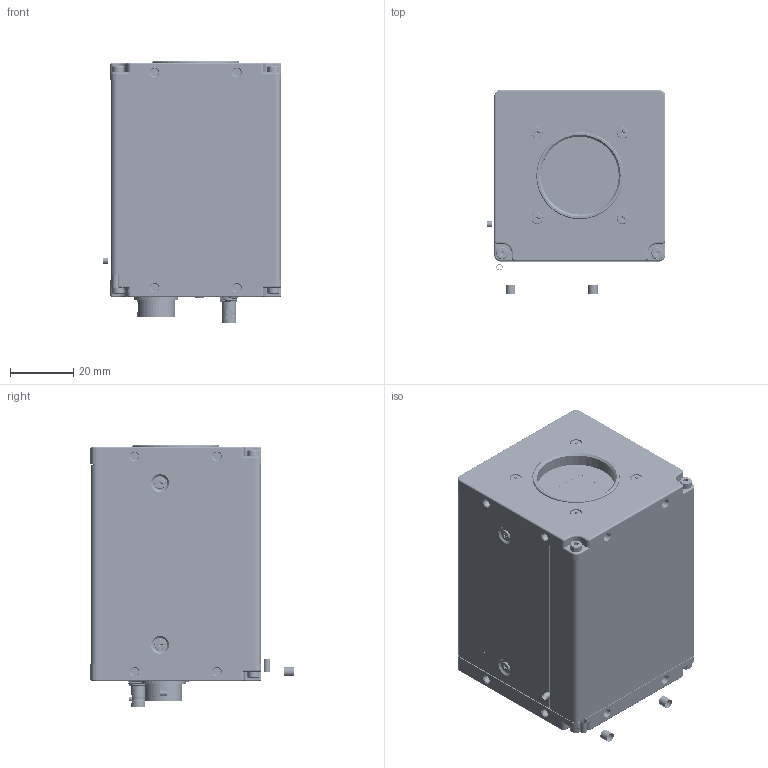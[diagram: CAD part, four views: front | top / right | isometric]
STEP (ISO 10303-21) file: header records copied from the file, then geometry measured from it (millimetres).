
FILE_DESCRIPTION((''),'2;1');
FILE_NAME('AP-5100_ELE_MECHA_LAYOUT_ASM','2024-10-25T18:29:53',('has'),(''),'CREO PARAMETRIC BY PTC INC, 2024133','CREO PARAMETRIC BY PTC INC, 2024133','');
FILE_SCHEMA(('AUTOMOTIVE_DESIGN { 1 0 10303 214 1 1 1 1 }'));
Products named in the file (54): PRISM_ASSY_9_PRT_1; SEIMITU_2_M2X3_NI_2_PRT_1_1; SEIMITU_2_M2X3_NI_2_PRT_1_2; SEIMITU_2_M2X3_NI_2_PRT_1_ASM; SENSOR_ASSY_IMX265_1; SENSOR_GUIDE_BLOCK_2_PRT_1; M4-4259-00E_3200_SENSOR_MASK_B_; USL00-40L; SENSOR_IMX548_ASSY_JAI_ASM_ASM; 1-1_8_PRISM_ASSY_JAI_ASM_1_ASM; AP5100_FRONT_P_COMP_54; SEIMITU_2_M2X3_BZN_4; CAP_2X6_SUS_3; AP-5100_CHASSIS; AP5100_REAR_PANEL_COM_CXP; HR10A-10R-12SB_CAMERA_2; 12PIN_KIKUZA_5; 12PIN_NUT_3; REAR_PCB_USB_12PIN_2ND_2_PRT_1; FX23-80P-0_5SV15; M4-3764-00E_LED_LENS_G4-3_4_1; SPACER_ASB2003-3E_HIROSUGI_3; SEIMITU_2_M2X5_BZN_5; HD-BNC_NUT_5; HD-BNC_3; AP-5100-CXP_REAR_PANEL_ASSY_ASM; AP5100_COVER_P_COMP_54; SEIMITU_2_M2X3_NI_1_1_1_1; FX23-80S-0_5SH; HIEN2_PCB_6_PRT_1; FPGA_FGG484_1_4_PRT_1; FFC-15PIN_2_PRT_1; DDR3_1_PRT_1; FH29B-100S-0_2SHW_1_1_2_1_3_PR_; K4-1125-04E_PK9496_HIEN2_BOARD__ASM; AP-HX2-REALAY_PCB_5_PRT_2_1; AXV-45-M3; M3_SPACER; BDJS3_6; K4-1129-02E_PK9523_AP-HX2-RE_2__ASM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
Assembly tree (85 placements, depth 4):
  AP-5100_ELE_MECHA_LAYOUT_ASM
    1-1_8_PRISM_ASSY_JAI_ASM_1_ASM
      PRISM_ASSY_9_PRT_1
      SEIMITU_2_M2X3_NI_2_PRT_1_ASM  x2
        SEIMITU_2_M2X3_NI_2_PRT_1_1
        SEIMITU_2_M2X3_NI_2_PRT_1_2
      SENSOR_IMX548_ASSY_JAI_ASM_ASM  x3
        SENSOR_ASSY_IMX265_1
        SENSOR_GUIDE_BLOCK_2_PRT_1
        M4-4259-00E_3200_SENSOR_MASK_B_
        USL00-40L
    AP5100_FRONT_P_COMP_54
    SEIMITU_2_M2X3_BZN_4  x10
    CAP_2X6_SUS_3  x4
    AP-5100_CHASSIS
    AP-5100-CXP_REAR_PANEL_ASSY_ASM
      AP5100_REAR_PANEL_COM_CXP
      HR10A-10R-12SB_CAMERA_2
      12PIN_KIKUZA_5
      12PIN_NUT_3
      REAR_PCB_USB_12PIN_2ND_2_PRT_1
      FX23-80P-0_5SV15
      M4-3764-00E_LED_LENS_G4-3_4_1
      SPACER_ASB2003-3E_HIROSUGI_3
      SEIMITU_2_M2X5_BZN_5
      HD-BNC_NUT_5
      HD-BNC_3
    AP5100_COVER_P_COMP_54
    SEIMITU_2_M2X3_NI_1_1_1_1  x3
    FX23-80S-0_5SH
    K4-1125-04E_PK9496_HIEN2_BOARD__ASM
      HIEN2_PCB_6_PRT_1
      FPGA_FGG484_1_4_PRT_1
      FFC-15PIN_2_PRT_1
      DDR3_1_PRT_1
      FH29B-100S-0_2SHW_1_1_2_1_3_PR_
    K4-1129-02E_PK9523_AP-HX2-RE_2__ASM
      AP-HX2-REALAY_PCB_5_PRT_2_1
      FH29B-100S-0_2SHW_1_1_2_1_3_PR_
      USL00-40L  x3
      AXV-45-M3  x3
      M3_SPACER  x6
      BDJS3_6  x3
    JAI_LOGO_SP_SERIES_5_ASM  x2
      JAI_LOGO_SP_SERIES_5_1
      JAI_LOGO_SP_SERIES_5_2
      JAI_LOGO_SP_SERIES_5_3
      JAI_LOGO_SP_SERIES_5_4
      JAI_LOGO_SP_SERIES_5_5
      JAI_LOGO_SP_SERIES_5_6
      JAI_LOGO_SP_SERIES_5_7
      JAI_LOGO_SP_SERIES_5_8
    POWER_TRIG_MOJI
    LINK_MOJI
    CXP_MOJI
    DC_IN_TRIG_MOJI
Bounding box: 56.4 x 64.21 x 82.55 mm (x, y, z)
Volume: 58047.3 mm3; surface area: 88426.2 mm2
Topology: 116 solids, 159 shells, 16051 faces, 46108 edges, 30563 vertices
Faces by surface type: plane 10599, cylinder 4590, cone 375, extrusion 223, torus 120, sphere 110, bspline 34
Entity records: 308379 total; most frequent: CARTESIAN_POINT 53667, ORIENTED_EDGE 43692, DIRECTION 40901, EDGE_CURVE 21912, VECTOR 16275, LINE 16064, VERTEX_POINT 14519, PRESENTATION_STYLE_ASSIGNMENT 13064
